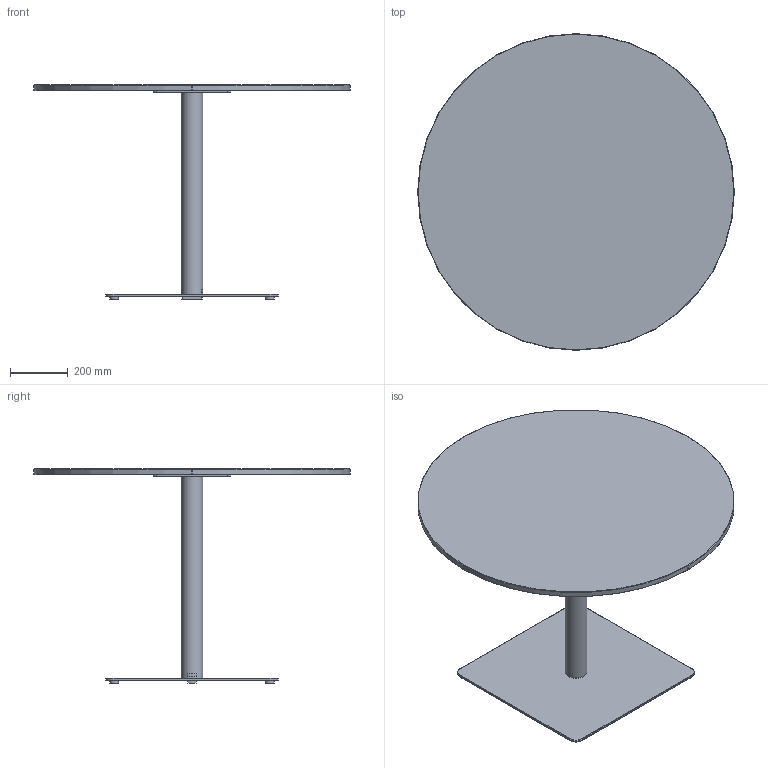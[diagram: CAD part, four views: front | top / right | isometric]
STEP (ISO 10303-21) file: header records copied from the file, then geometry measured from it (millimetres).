
FILE_DESCRIPTION( ('This file contains a STEP AP42 implementation' ,'as created by ZW3D STEP Interface translator.') ,'2;1' );
FILE_NAME( 'Henri - B_Carré - F1 - M1 - 1100 x 1100 x 750.stp' ,'24 912.1617 3', (''), ('ZWCAD Software Co.'), 'Version 1.0', 'ZW3D to STEP translator', '' );
FILE_SCHEMA(('AUTOMOTIVE_DESIGN { 1 0 10303 214 1 1 1 1 }'));
Length unit declared in the file: millimetre
Products named in the file (14): 0; PIED BISTROT PARAMETRIQUE_; COLONNE ACIER Ø76 V.02_; TUB-D076-02_; PLA-R76B-01_; CROIX ACIER 370 V.02_; CRX-X370-02_; SOCLE ACIER L 600x600 V.02_; SCL-R600-02_; PLA-R30A-01_; PLA-R30A-01; WUERTH 0276063020 Euro-screw 6.3x2 Verzinkt_; PLATEAU BISTROT PARAMETRIQUE_; insert_m6_13_
Assembly tree (22 placements, depth 3):
  0
  PIED BISTROT PARAMETRIQUE_
    COLONNE ACIER Ø76 V.02_
      TUB-D076-02_
      PLA-R76B-01_  x2
    CROIX ACIER 370 V.02_
      CRX-X370-02_
    SOCLE ACIER L 600x600 V.02_
      SCL-R600-02_
      PLA-R30A-01_
      PLA-R30A-01  x3
    WUERTH 0276063020 Euro-screw 6.3x2 Verzinkt_
    PLATEAU BISTROT PARAMETRIQUE_
      insert_m6_13_  x8
Bounding box: 1100 x 1100 x 744 mm (x, y, z)
Volume: 22819529.8 mm3; surface area: 3221063.3 mm2
Topology: 19 solids, 19 shells, 537 faces, 1310 edges, 822 vertices
Faces by surface type: plane 262, bspline 121, cylinder 98, cone 55, torus 1
Full cylindrical faces by diameter (mm): 4.88 x1, 6 x8, 6.3 x1, 8 x45, 12 x2, 14 x2, 30 x4, 72 x1, 76 x1
Entity records: 12310 total; most frequent: CARTESIAN_POINT 3396, ORIENTED_EDGE 1624, DIRECTION 1519, EDGE_CURVE 812, VERTEX_POINT 518, VECTOR 513, LINE 513, AXIS2_PLACEMENT_3D 503
